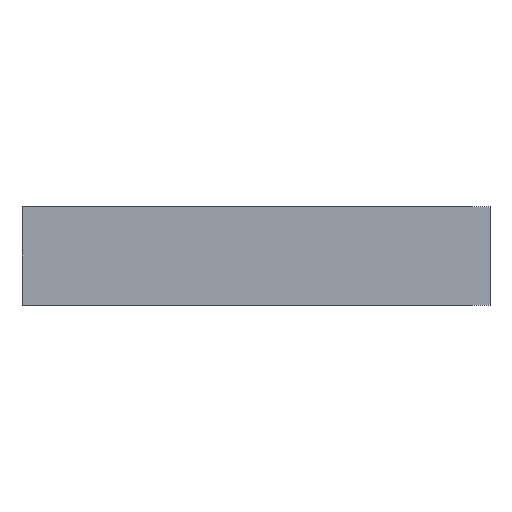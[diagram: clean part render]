
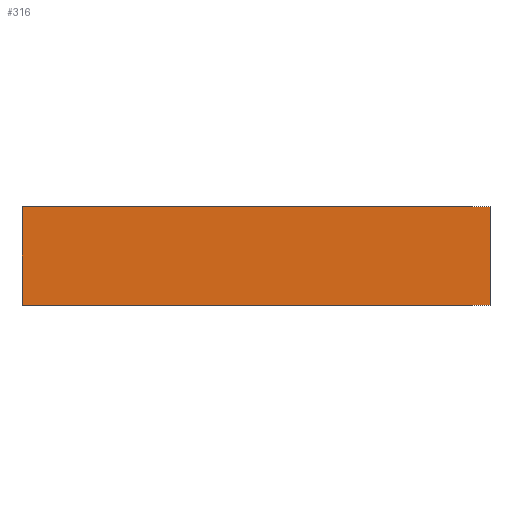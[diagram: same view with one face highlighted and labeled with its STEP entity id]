
A CAD part, front view. The second image highlights one B-rep face of the part: STEP entity #316.
In plain terms, the highlighted planar face has unit normal (0, -1, 0).
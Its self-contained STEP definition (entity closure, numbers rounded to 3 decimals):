
#4 = EDGE_CURVE ( 'NONE', #522, #499, #207, .T. ) ;
#6 = EDGE_CURVE ( 'NONE', #511, #567, #86, .T. ) ;
#16 = AXIS2_PLACEMENT_3D ( 'NONE', #479, #473, #472 ) ;
#36 = EDGE_CURVE ( 'NONE', #511, #522, #163, .T. ) ;
#55 = EDGE_CURVE ( 'NONE', #567, #499, #172, .T. ) ;
#86 = LINE ( 'NONE', #442, #203 ) ;
#128 = FACE_OUTER_BOUND ( 'NONE', #227, .T. ) ;
#149 = VECTOR ( 'NONE', #510, 1000. ) ;
#162 = VECTOR ( 'NONE', #532, 1000. ) ;
#163 = LINE ( 'NONE', #533, #162 ) ;
#172 = LINE ( 'NONE', #536, #149 ) ;
#203 = VECTOR ( 'NONE', #427, 1000. ) ;
#206 = VECTOR ( 'NONE', #446, 1000. ) ;
#207 = LINE ( 'NONE', #448, #206 ) ;
#227 = EDGE_LOOP ( 'NONE', ( #284, #285, #286, #287 ) ) ;
#284 = ORIENTED_EDGE ( 'NONE', *, *, #4, .T. ) ;
#285 = ORIENTED_EDGE ( 'NONE', *, *, #55, .F. ) ;
#286 = ORIENTED_EDGE ( 'NONE', *, *, #6, .F. ) ;
#287 = ORIENTED_EDGE ( 'NONE', *, *, #36, .T. ) ;
#316 = ADVANCED_FACE ( 'NONE', ( #128 ), #508, .F. ) ;
#376 = CARTESIAN_POINT ( 'NONE',  ( 154., 0., 65. ) ) ;
#391 = CARTESIAN_POINT ( 'NONE',  ( -154., 0., 0. ) ) ;
#400 = CARTESIAN_POINT ( 'NONE',  ( 154., 0., 0. ) ) ;
#402 = CARTESIAN_POINT ( 'NONE',  ( -154., 0., 65. ) ) ;
#427 = DIRECTION ( 'NONE',  ( 1., 0., 0. ) ) ;
#442 = CARTESIAN_POINT ( 'NONE',  ( -154., 0., 65. ) ) ;
#446 = DIRECTION ( 'NONE',  ( 1., 0., 0. ) ) ;
#448 = CARTESIAN_POINT ( 'NONE',  ( -154., 0., 0. ) ) ;
#472 = DIRECTION ( 'NONE',  ( -1., 0., 0. ) ) ;
#473 = DIRECTION ( 'NONE',  ( 0., 1., 0. ) ) ;
#479 = CARTESIAN_POINT ( 'NONE',  ( -154., 0., 65. ) ) ;
#499 = VERTEX_POINT ( 'NONE', #400 ) ;
#508 = PLANE ( 'NONE',  #16 ) ;
#510 = DIRECTION ( 'NONE',  ( 0., 0., -1. ) ) ;
#511 = VERTEX_POINT ( 'NONE', #402 ) ;
#522 = VERTEX_POINT ( 'NONE', #391 ) ;
#532 = DIRECTION ( 'NONE',  ( 0., 0., -1. ) ) ;
#533 = CARTESIAN_POINT ( 'NONE',  ( -154., 0., 65. ) ) ;
#536 = CARTESIAN_POINT ( 'NONE',  ( 154., 0., 65. ) ) ;
#567 = VERTEX_POINT ( 'NONE', #376 ) ;
